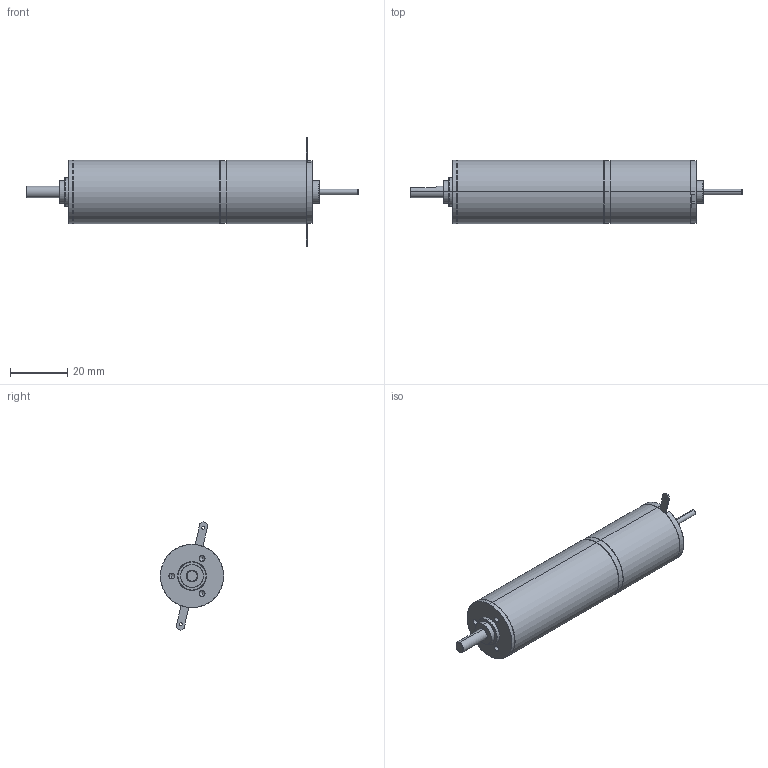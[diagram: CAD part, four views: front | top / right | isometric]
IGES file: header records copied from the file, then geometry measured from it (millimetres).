
Start section: SolidWorks IGES file using analytic representation for surfaces
Global section: file name: \\Uranus\R&D\plans\CATALOGUES\Topstock_Piece_IGES\AMax22CLL_+_GP022C 5etages.IGS; native system: SolidWorks 2008; preprocessor: SolidWorks 2008; author: JUL; date: 090325.183612; units: millimetre
Bounding box: 115.55 x 22 x 37.64 mm (x, y, z)
Surface area: 8912.3 mm2 (no closed solid volume)
Topology: 0 solids, 0 shells, 147 faces, 1709 edges, 1683 vertices
Faces by surface type: revolution 106, bspline 41
